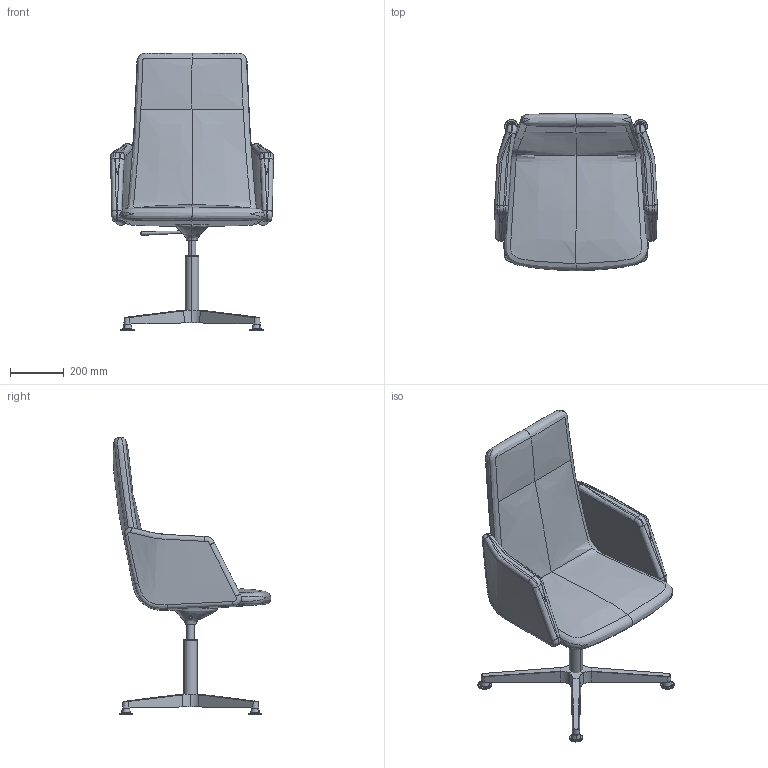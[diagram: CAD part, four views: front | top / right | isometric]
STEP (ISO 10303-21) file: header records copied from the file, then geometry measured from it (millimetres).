
FILE_DESCRIPTION(/* description */ (''),/* implementation_level */ '2;1');
FILE_NAME(/* name */ 'HA358C~1',/* time_stamp */ '2016-07-26T15:28:16+02:00',/* author */ (''),/* organization */ (''),/* preprocessor_version */ 'ST-DEVELOPER v15',/* originating_system */ '',/* authorisation */ '');
FILE_SCHEMA (('CONFIG_CONTROL_DESIGN'));
Length unit declared in the file: millimetre
Products named in the file (1): Document
Bounding box: 606.28 x 586.53 x 1032.35 mm (x, y, z)
Surface area: 1767686.3 mm2 (no closed solid volume)
Topology: 0 solids, 21 shells, 207 faces, 483 edges, 291 vertices
Faces by surface type: bspline 192, plane 15
Entity records: 20861 total; most frequent: CARTESIAN_POINT 17970, ORIENTED_EDGE 838, EDGE_CURVE 476, B_SPLINE_CURVE_WITH_KNOTS 376, VERTEX_POINT 285, EDGE_LOOP 209, ADVANCED_FACE 207, FACE_OUTER_BOUND 207
